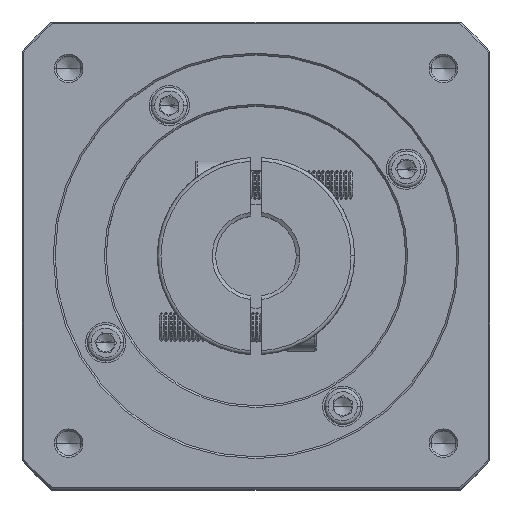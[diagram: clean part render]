
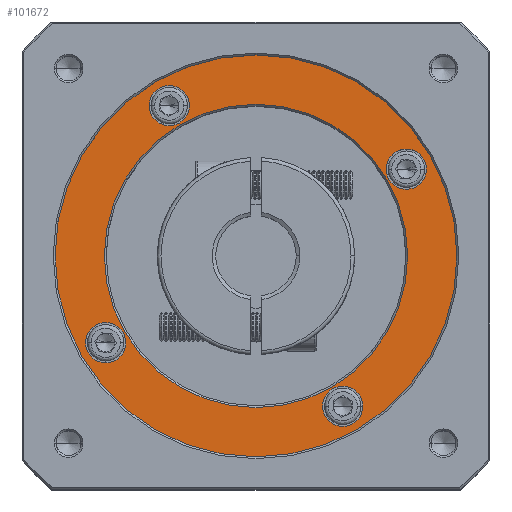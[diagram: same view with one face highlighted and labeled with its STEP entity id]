
A CAD part, top view. The second image highlights one B-rep face of the part: STEP entity #101672.
In plain terms, the highlighted planar face has unit normal (0, 0, 1).
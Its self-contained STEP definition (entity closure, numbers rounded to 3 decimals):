
#2494 = DIRECTION ( 'NONE',  ( 1., 0., 0. ) ) ;
#2956 = VERTEX_POINT ( 'NONE', #9940 ) ;
#3261 = EDGE_CURVE ( 'NONE', #107471, #114174, #63613, .T. ) ;
#4246 = EDGE_CURVE ( 'NONE', #38185, #67570, #28990, .T. ) ;
#4405 = VERTEX_POINT ( 'NONE', #65336 ) ;
#5404 = AXIS2_PLACEMENT_3D ( 'NONE', #82870, #29134, #91822 ) ;
#5740 = ORIENTED_EDGE ( 'NONE', *, *, #85008, .T. ) ;
#7405 = EDGE_CURVE ( 'NONE', #22628, #2956, #43895, .T. ) ;
#7790 = CIRCLE ( 'NONE', #47293, 5.5 ) ;
#9228 = DIRECTION ( 'NONE',  ( 0., 0., 1. ) ) ;
#9940 = CARTESIAN_POINT ( 'NONE',  ( 42.713, 75.977, -20.574 ) ) ;
#10396 = AXIS2_PLACEMENT_3D ( 'NONE', #62955, #9228, #71876 ) ;
#10572 = ORIENTED_EDGE ( 'NONE', *, *, #58136, .T. ) ;
#11131 = ORIENTED_EDGE ( 'NONE', *, *, #102507, .T. ) ;
#14805 = EDGE_LOOP ( 'NONE', ( #47054, #60611 ) ) ;
#16554 = AXIS2_PLACEMENT_3D ( 'NONE', #44123, #106798, #53147 ) ;
#18924 = AXIS2_PLACEMENT_3D ( 'NONE', #32218, #94924, #41252 ) ;
#19735 = EDGE_LOOP ( 'NONE', ( #79426, #67079 ) ) ;
#20840 = DIRECTION ( 'NONE',  ( 0., 0., -1. ) ) ;
#22628 = VERTEX_POINT ( 'NONE', #39103 ) ;
#23164 = CARTESIAN_POINT ( 'NONE',  ( 83.85, 141.227, -20.574 ) ) ;
#23291 = CARTESIAN_POINT ( 'NONE',  ( -3.923, 93.727, -20.574 ) ) ;
#24769 = CARTESIAN_POINT ( 'NONE',  ( 66.463, 76.341, -20.574 ) ) ;
#26077 = PLANE ( 'NONE',  #10396 ) ;
#26810 = DIRECTION ( 'NONE',  ( 0., 0., -1. ) ) ;
#26816 = DIRECTION ( 'NONE',  ( 0., 0., -1. ) ) ;
#27318 = AXIS2_PLACEMENT_3D ( 'NONE', #23164, #85917, #32205 ) ;
#28990 = CIRCLE ( 'NONE', #53908, 5.5 ) ;
#29134 = DIRECTION ( 'NONE',  ( 0., 0., -1. ) ) ;
#29798 = CIRCLE ( 'NONE', #90374, 5.5 ) ;
#32205 = DIRECTION ( 'NONE',  ( 1., 0., 0. ) ) ;
#32218 = CARTESIAN_POINT ( 'NONE',  ( 42.713, 117.477, -20.574 ) ) ;
#32273 = CARTESIAN_POINT ( 'NONE',  ( 89.35, 141.227, -20.574 ) ) ;
#33342 = CIRCLE ( 'NONE', #51660, 5.5 ) ;
#33801 = DIRECTION ( 'NONE',  ( 1., 0., 0. ) ) ;
#35120 = AXIS2_PLACEMENT_3D ( 'NONE', #39708, #103971, #50312 ) ;
#35678 = ORIENTED_EDGE ( 'NONE', *, *, #3261, .T. ) ;
#36311 = ORIENTED_EDGE ( 'NONE', *, *, #74969, .T. ) ;
#36755 = CARTESIAN_POINT ( 'NONE',  ( 83.85, 141.227, -20.574 ) ) ;
#37505 = FACE_BOUND ( 'NONE', #78402, .T. ) ;
#38032 = CIRCLE ( 'NONE', #5404, 5.5 ) ;
#38185 = VERTEX_POINT ( 'NONE', #32273 ) ;
#38370 = VERTEX_POINT ( 'NONE', #89824 ) ;
#38632 = CARTESIAN_POINT ( 'NONE',  ( 42.713, 117.477, -20.574 ) ) ;
#39103 = CARTESIAN_POINT ( 'NONE',  ( 42.713, 158.977, -20.574 ) ) ;
#39708 = CARTESIAN_POINT ( 'NONE',  ( 42.713, 117.477, -20.574 ) ) ;
#40291 = FACE_OUTER_BOUND ( 'NONE', #14805, .T. ) ;
#41252 = DIRECTION ( 'NONE',  ( 0., -1., 0. ) ) ;
#43251 = AXIS2_PLACEMENT_3D ( 'NONE', #80528, #26816, #89528 ) ;
#43895 = CIRCLE ( 'NONE', #85953, 41.5 ) ;
#44123 = CARTESIAN_POINT ( 'NONE',  ( 1.577, 93.727, -20.574 ) ) ;
#44226 = CIRCLE ( 'NONE', #35120, 55. ) ;
#44464 = VERTEX_POINT ( 'NONE', #101006 ) ;
#45730 = DIRECTION ( 'NONE',  ( 1., 0., 0. ) ) ;
#47054 = ORIENTED_EDGE ( 'NONE', *, *, #53412, .T. ) ;
#47071 = CARTESIAN_POINT ( 'NONE',  ( 60.963, 76.341, -20.574 ) ) ;
#47293 = AXIS2_PLACEMENT_3D ( 'NONE', #24769, #87502, #33801 ) ;
#47665 = DIRECTION ( 'NONE',  ( 0., -1., 0. ) ) ;
#49936 = CARTESIAN_POINT ( 'NONE',  ( -12.287, 117.477, -20.574 ) ) ;
#50312 = DIRECTION ( 'NONE',  ( 1., 0., 0. ) ) ;
#51660 = AXIS2_PLACEMENT_3D ( 'NONE', #74494, #20840, #83604 ) ;
#51673 = EDGE_CURVE ( 'NONE', #38370, #92284, #38032, .T. ) ;
#53147 = DIRECTION ( 'NONE',  ( 1., 0., 0. ) ) ;
#53412 = EDGE_CURVE ( 'NONE', #4405, #81701, #79906, .T. ) ;
#53908 = AXIS2_PLACEMENT_3D ( 'NONE', #36755, #99426, #45730 ) ;
#56194 = DIRECTION ( 'NONE',  ( 0., 0., 1. ) ) ;
#58136 = EDGE_CURVE ( 'NONE', #67570, #38185, #102316, .T. ) ;
#60611 = ORIENTED_EDGE ( 'NONE', *, *, #116149, .T. ) ;
#61343 = FACE_BOUND ( 'NONE', #19735, .T. ) ;
#62955 = CARTESIAN_POINT ( 'NONE',  ( 42.713, 117.477, -20.574 ) ) ;
#63613 = CIRCLE ( 'NONE', #43251, 5.5 ) ;
#65336 = CARTESIAN_POINT ( 'NONE',  ( 97.713, 117.477, -20.574 ) ) ;
#66199 = ORIENTED_EDGE ( 'NONE', *, *, #4246, .T. ) ;
#66515 = CARTESIAN_POINT ( 'NONE',  ( 78.35, 141.227, -20.574 ) ) ;
#67079 = ORIENTED_EDGE ( 'NONE', *, *, #51673, .T. ) ;
#67151 = EDGE_LOOP ( 'NONE', ( #66199, #10572 ) ) ;
#67570 = VERTEX_POINT ( 'NONE', #66515 ) ;
#68511 = EDGE_LOOP ( 'NONE', ( #69130, #72849 ) ) ;
#69130 = ORIENTED_EDGE ( 'NONE', *, *, #104016, .T. ) ;
#71876 = DIRECTION ( 'NONE',  ( 1., 0., 0. ) ) ;
#72849 = ORIENTED_EDGE ( 'NONE', *, *, #7405, .T. ) ;
#74494 = CARTESIAN_POINT ( 'NONE',  ( 18.963, 158.613, -20.574 ) ) ;
#74969 = EDGE_CURVE ( 'NONE', #93002, #44464, #29798, .T. ) ;
#78402 = EDGE_LOOP ( 'NONE', ( #5740, #36311 ) ) ;
#79426 = ORIENTED_EDGE ( 'NONE', *, *, #90530, .T. ) ;
#79906 = CIRCLE ( 'NONE', #87470, 55. ) ;
#80434 = CIRCLE ( 'NONE', #16554, 5.5 ) ;
#80522 = CARTESIAN_POINT ( 'NONE',  ( 1.577, 93.727, -20.574 ) ) ;
#80528 = CARTESIAN_POINT ( 'NONE',  ( 66.463, 76.341, -20.574 ) ) ;
#81701 = VERTEX_POINT ( 'NONE', #49936 ) ;
#82870 = CARTESIAN_POINT ( 'NONE',  ( 18.963, 158.613, -20.574 ) ) ;
#83604 = DIRECTION ( 'NONE',  ( 1., 0., 0. ) ) ;
#85008 = EDGE_CURVE ( 'NONE', #44464, #93002, #80434, .T. ) ;
#85167 = FACE_BOUND ( 'NONE', #67151, .T. ) ;
#85917 = DIRECTION ( 'NONE',  ( 0., 0., -1. ) ) ;
#85953 = AXIS2_PLACEMENT_3D ( 'NONE', #38632, #101296, #47665 ) ;
#87470 = AXIS2_PLACEMENT_3D ( 'NONE', #109799, #56194, #2494 ) ;
#87502 = DIRECTION ( 'NONE',  ( 0., 0., -1. ) ) ;
#89523 = DIRECTION ( 'NONE',  ( 1., 0., 0. ) ) ;
#89528 = DIRECTION ( 'NONE',  ( 1., 0., 0. ) ) ;
#89824 = CARTESIAN_POINT ( 'NONE',  ( 13.463, 158.613, -20.574 ) ) ;
#90374 = AXIS2_PLACEMENT_3D ( 'NONE', #80522, #26810, #89523 ) ;
#90530 = EDGE_CURVE ( 'NONE', #92284, #38370, #33342, .T. ) ;
#90778 = FACE_BOUND ( 'NONE', #68511, .T. ) ;
#91355 = EDGE_LOOP ( 'NONE', ( #11131, #35678 ) ) ;
#91822 = DIRECTION ( 'NONE',  ( 1., 0., 0. ) ) ;
#92284 = VERTEX_POINT ( 'NONE', #115550 ) ;
#93002 = VERTEX_POINT ( 'NONE', #23291 ) ;
#94924 = DIRECTION ( 'NONE',  ( 0., 0., -1. ) ) ;
#99426 = DIRECTION ( 'NONE',  ( 0., 0., -1. ) ) ;
#101006 = CARTESIAN_POINT ( 'NONE',  ( 7.077, 93.727, -20.574 ) ) ;
#101296 = DIRECTION ( 'NONE',  ( 0., 0., -1. ) ) ;
#101672 = ADVANCED_FACE ( 'NONE', ( #40291, #90778, #85167, #61343, #108945, #37505 ), #26077, .T. ) ;
#102316 = CIRCLE ( 'NONE', #27318, 5.5 ) ;
#102507 = EDGE_CURVE ( 'NONE', #114174, #107471, #7790, .T. ) ;
#103971 = DIRECTION ( 'NONE',  ( 0., 0., 1. ) ) ;
#104016 = EDGE_CURVE ( 'NONE', #2956, #22628, #113536, .T. ) ;
#106798 = DIRECTION ( 'NONE',  ( 0., 0., -1. ) ) ;
#107471 = VERTEX_POINT ( 'NONE', #47071 ) ;
#108945 = FACE_BOUND ( 'NONE', #91355, .T. ) ;
#109799 = CARTESIAN_POINT ( 'NONE',  ( 42.713, 117.477, -20.574 ) ) ;
#113536 = CIRCLE ( 'NONE', #18924, 41.5 ) ;
#114174 = VERTEX_POINT ( 'NONE', #115194 ) ;
#115194 = CARTESIAN_POINT ( 'NONE',  ( 71.963, 76.341, -20.574 ) ) ;
#115550 = CARTESIAN_POINT ( 'NONE',  ( 24.463, 158.613, -20.574 ) ) ;
#116149 = EDGE_CURVE ( 'NONE', #81701, #4405, #44226, .T. ) ;
